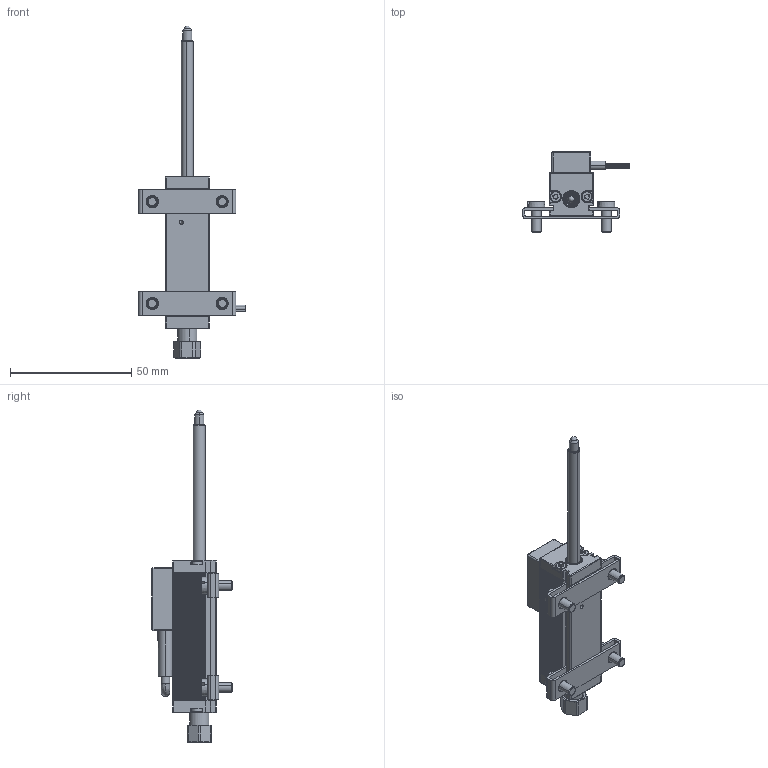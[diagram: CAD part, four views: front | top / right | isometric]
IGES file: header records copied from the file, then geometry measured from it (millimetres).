
Start section: SolidWorks IGES file using analytic representation for surfaces
Global section: file name: E:\Salzinger\I-net_3D\T-Serie_Essentials\T_TS_TR_TRS_-_SLDPRTs\TR_025.IGS; native system: SolidWorks 2008; preprocessor: SolidWorks 2008; author: salzinger; date: 081105.130716; units: millimetre
Bounding box: 44.13 x 33.19 x 137 mm (x, y, z)
Surface area: 18552.4 mm2 (no closed solid volume)
Topology: 0 solids, 0 shells, 941 faces, 9264 edges, 9250 vertices
Faces by surface type: revolution 566, bspline 375
